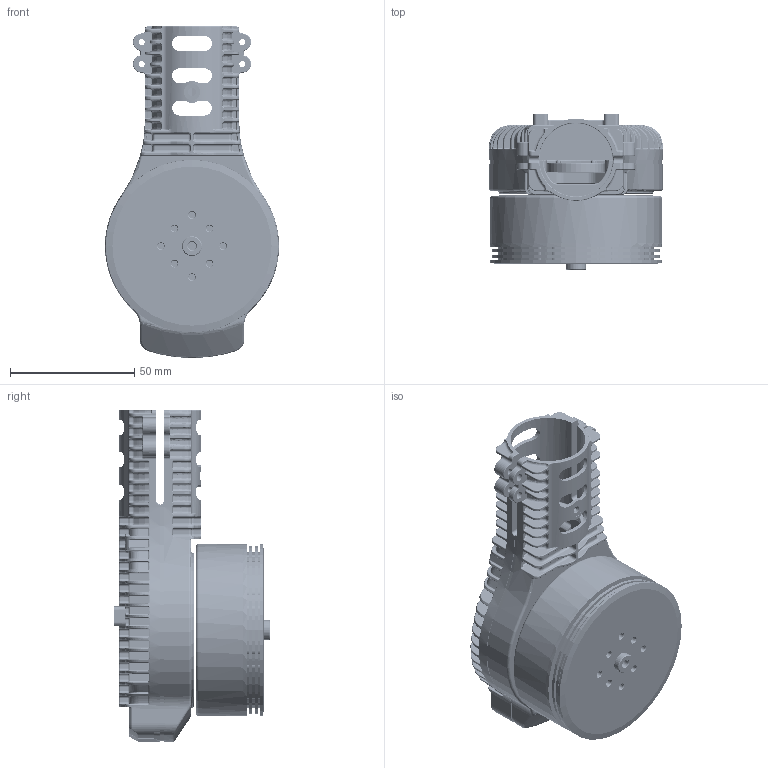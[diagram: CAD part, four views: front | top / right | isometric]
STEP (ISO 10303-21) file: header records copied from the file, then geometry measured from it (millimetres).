
FILE_DESCRIPTION((''),'2;1');
FILE_NAME('1400004_9_25_','2020-07-23T',('owner'),(''),'PRO/ENGINEER BY PARAMETRIC TECHNOLOGY CORPORATION, 2014320','PRO/ENGINEER BY PARAMETRIC TECHNOLOGY CORPORATION, 2014320','');
FILE_SCHEMA(('CONFIG_CONTROL_DESIGN','SHAPE_APPEARANCE_LAYERS_GROUPS'));
Length unit declared in the file: millimetre
Products named in the file (1): 1400004_9_25_
Bounding box: 70 x 62.65 x 133.5 mm (x, y, z)
Volume: 142178.1 mm3; surface area: 79689.4 mm2
Topology: 2 solids, 2 shells, 6728 faces, 16466 edges, 9303 vertices
Faces by surface type: cylinder 2787, torus 1353, plane 1131, bspline 1073, sphere 246, cone 93, extrusion 45
Entity records: 280171 total; most frequent: CARTESIAN_POINT 128862, ORIENTED_EDGE 32092, DIRECTION 32028, EDGE_CURVE 16046, AXIS2_PLACEMENT_3D 13164, VERTEX_POINT 9306, CIRCLE 7554, EDGE_LOOP 6844
